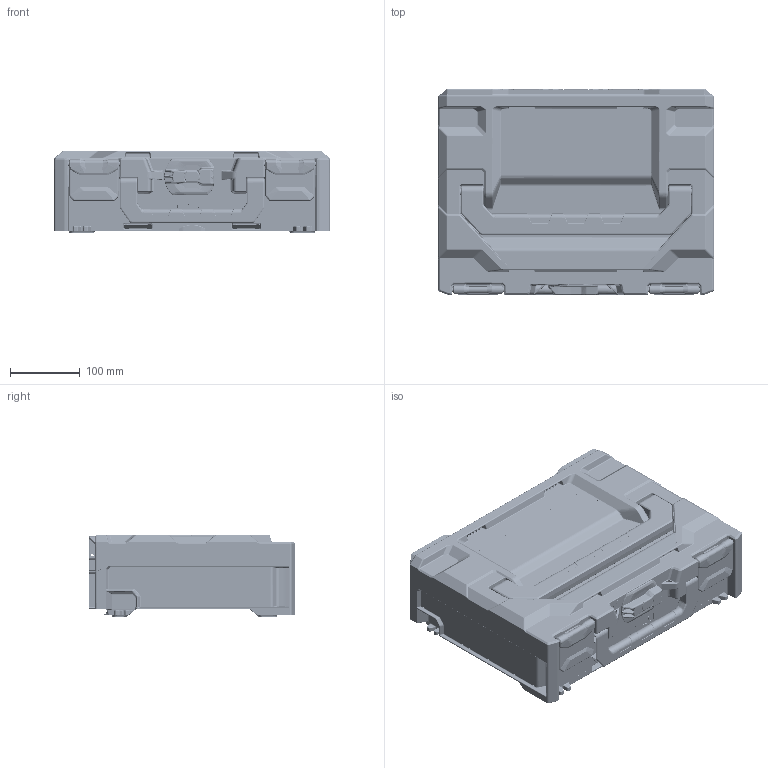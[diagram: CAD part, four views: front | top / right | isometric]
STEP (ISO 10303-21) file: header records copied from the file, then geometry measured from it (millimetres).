
FILE_DESCRIPTION(/* description */ (''),/* implementation_level */ '2;1');
FILE_NAME(/* name */ 'metaBOX_118_Neutral.stp',/* time_stamp */ '2020-06-16T15:57:01+02:00',/* author */ (''),/* organization */ (''),/* preprocessor_version */ 'ST-DEVELOPER v16.7',/* originating_system */ 'SIEMENS PLM Software NX 12.0',/* authorisation */ '');
FILE_SCHEMA (('AUTOMOTIVE_DESIGN { 1 0 10303 214 3 1 1 1 }'));
Products named in the file (1): BU740C6CC2yd50
Bounding box: 396 x 296.1 x 118 mm (x, y, z)
Volume: 1326073.8 mm3; surface area: 1111403.3 mm2
Topology: 7 solids, 7 shells, 13445 faces, 33090 edges, 19110 vertices
Faces by surface type: bspline 5326, cylinder 4433, plane 2874, sphere 411, cone 219, torus 174, extrusion 8
Full cylindrical faces by diameter (mm): 4 x11
Entity records: 522591 total; most frequent: CARTESIAN_POINT 239957, ORIENTED_EDGE 64750, DIRECTION 52447, EDGE_CURVE 32375, AXIS2_PLACEMENT_3D 20499, VERTEX_POINT 19078, EDGE_LOOP 13693, ADVANCED_FACE 13441
